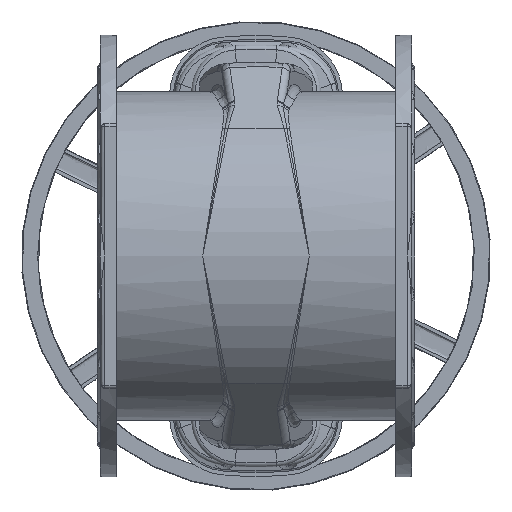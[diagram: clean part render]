
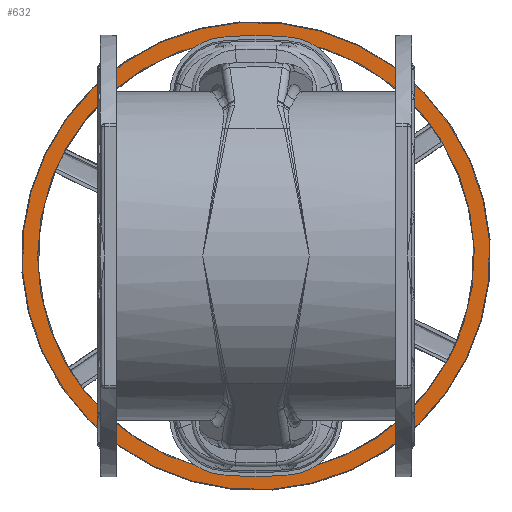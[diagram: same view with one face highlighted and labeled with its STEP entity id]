
A CAD part, front view. The second image highlights one B-rep face of the part: STEP entity #632.
In plain terms, the highlighted planar face has unit normal (0, -1, 0).
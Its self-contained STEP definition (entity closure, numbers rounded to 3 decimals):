
#632 = ADVANCED_FACE ( 'NONE', ( #22738, #22739 ), #13004, .F. ) ;
#1394 = AXIS2_PLACEMENT_3D ( 'NONE', #39084, #39085, #39086 ) ;
#1395 = AXIS2_PLACEMENT_3D ( 'NONE', #39088, #39089, #39090 ) ;
#4254 = EDGE_LOOP ( 'NONE', ( #33399 ) ) ;
#4283 = EDGE_LOOP ( 'NONE', ( #33398 ) ) ;
#11136 = EDGE_CURVE ( 'NONE', #26840, #26840, #14601, .T. ) ;
#11137 = EDGE_CURVE ( 'NONE', #26841, #26841, #14602, .T. ) ;
#13002 = CARTESIAN_POINT ( 'NONE',  ( 265.297, 1236., -129.27 ) ) ;
#13004 = PLANE ( 'NONE',  #15425 ) ;
#13006 = DIRECTION ( 'NONE',  ( 0., 1., 0. ) ) ;
#13007 = DIRECTION ( 'NONE',  ( -0.899, 0., 0.438 ) ) ;
#14601 = CIRCLE ( 'NONE', #1394, 299.116 ) ;
#14602 = CIRCLE ( 'NONE', #1395, 279.221 ) ;
#15425 = AXIS2_PLACEMENT_3D ( 'NONE', #13002, #13006, #13007 ) ;
#22738 = FACE_OUTER_BOUND ( 'NONE', #4283, .T. ) ;
#22739 = FACE_BOUND ( 'NONE', #4254, .T. ) ;
#26840 = VERTEX_POINT ( 'NONE', #38823 ) ;
#26841 = VERTEX_POINT ( 'NONE', #38824 ) ;
#33398 = ORIENTED_EDGE ( 'NONE', *, *, #11136, .F. ) ;
#33399 = ORIENTED_EDGE ( 'NONE', *, *, #11137, .F. ) ;
#38823 = CARTESIAN_POINT ( 'NONE',  ( -268.893, 1236., 131.022 ) ) ;
#38824 = CARTESIAN_POINT ( 'NONE',  ( -279.221, 1236., 0. ) ) ;
#39084 = CARTESIAN_POINT ( 'NONE',  ( 0., 1236., 0. ) ) ;
#39085 = DIRECTION ( 'NONE',  ( 0., 1., 0. ) ) ;
#39086 = DIRECTION ( 'NONE',  ( -0.899, 0., 0.438 ) ) ;
#39088 = CARTESIAN_POINT ( 'NONE',  ( 0., 1236., 0. ) ) ;
#39089 = DIRECTION ( 'NONE',  ( 0., -1., 0. ) ) ;
#39090 = DIRECTION ( 'NONE',  ( -1., 0., 0. ) ) ;
